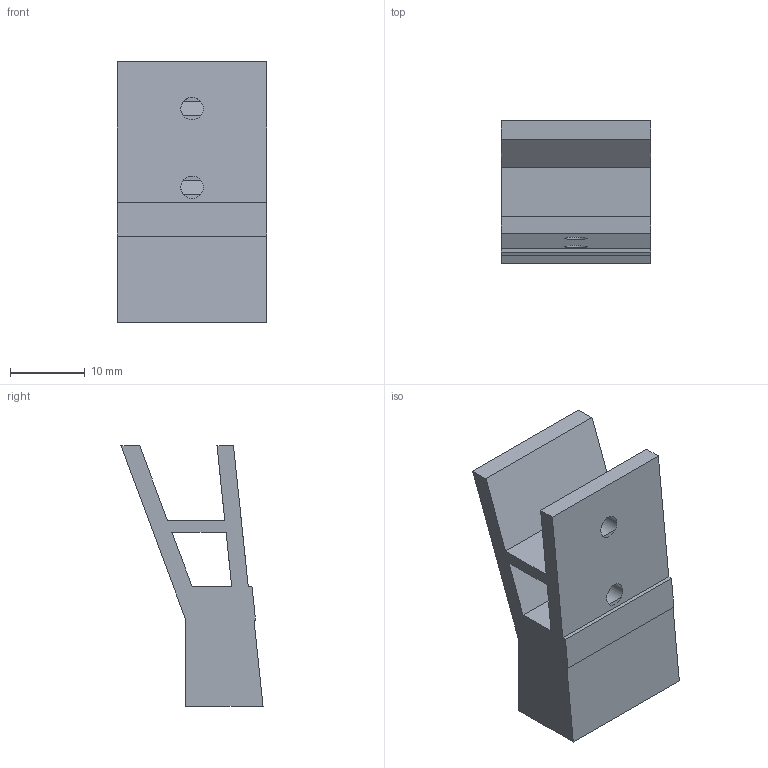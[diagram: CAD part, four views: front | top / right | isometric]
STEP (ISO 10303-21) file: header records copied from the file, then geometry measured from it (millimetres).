
FILE_DESCRIPTION(('Open CASCADE Model'),'2;1');
FILE_NAME('Open CASCADE Shape Model','2026-10-17T22:10:43',('Author'),( 'Open CASCADE'),'Open CASCADE STEP processor 7.9','Open CASCADE 7.9' ,'Unknown');
FILE_SCHEMA(('AUTOMOTIVE_DESIGN { 1 0 10303 214 1 1 1 1 }'));
Length unit declared in the file: millimetre
Products named in the file (1): Open CASCADE STEP translator 7.9 40
Bounding box: 20 x 18.96 x 34.75 mm (x, y, z)
Volume: 5089.8 mm3; surface area: 3385.2 mm2
Topology: 1 solids, 1 shells, 25 faces, 69 edges, 46 vertices
Faces by surface type: plane 23, cylinder 2
Full cylindrical faces by diameter (mm): 3 x2
Entity records: 1806 total; most frequent: CARTESIAN_POINT 423, DIRECTION 251, LINE 175, VECTOR 175, ORIENTED_EDGE 138, PCURVE 138, DEFINITIONAL_REPRESENTATION 138, EDGE_CURVE 69
